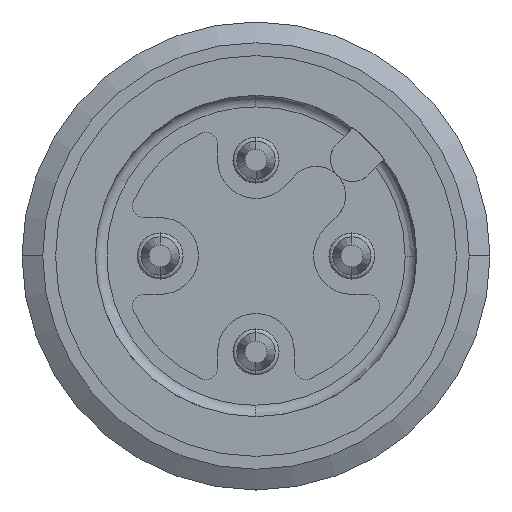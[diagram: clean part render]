
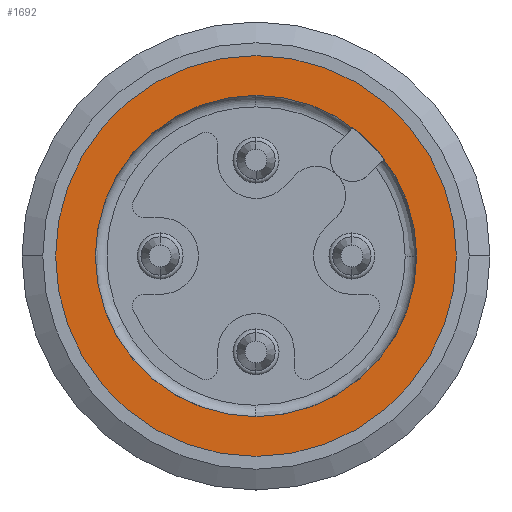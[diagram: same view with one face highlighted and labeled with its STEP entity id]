
A CAD part, front view. The second image highlights one B-rep face of the part: STEP entity #1692.
In plain terms, the highlighted planar face has unit normal (0, -1, 0).
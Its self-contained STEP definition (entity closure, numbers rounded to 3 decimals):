
#1634 = EDGE_CURVE('',#1635,#1637,#1639,.T.);
#1635 = VERTEX_POINT('',#1636);
#1636 = CARTESIAN_POINT('',(0.,-33.163,
    4.187));
#1637 = VERTEX_POINT('',#1638);
#1638 = CARTESIAN_POINT('',(0.,-33.163,
    -4.188));
#1639 = CIRCLE('',#1640,4.188);
#1640 = AXIS2_PLACEMENT_3D('',#1641,#1642,#1643);
#1641 = CARTESIAN_POINT('',(0.,-33.163,
    0.));
#1642 = DIRECTION('',(0.,1.,0.));
#1643 = DIRECTION('',(0.,0.,1.));
#1692 = ADVANCED_FACE('',(#1693,#1713),#1723,.T.);
#1693 = FACE_BOUND('',#1694,.T.);
#1694 = EDGE_LOOP('',(#1695,#1706));
#1695 = ORIENTED_EDGE('',*,*,#1696,.F.);
#1696 = EDGE_CURVE('',#1697,#1699,#1701,.T.);
#1697 = VERTEX_POINT('',#1698);
#1698 = CARTESIAN_POINT('',(0.,-33.163,
    5.225));
#1699 = VERTEX_POINT('',#1700);
#1700 = CARTESIAN_POINT('',(0.,-33.163,
    -5.225));
#1701 = CIRCLE('',#1702,5.225);
#1702 = AXIS2_PLACEMENT_3D('',#1703,#1704,#1705);
#1703 = CARTESIAN_POINT('',(0.,-33.163,
    0.));
#1704 = DIRECTION('',(0.,1.,0.));
#1705 = DIRECTION('',(0.,0.,1.));
#1706 = ORIENTED_EDGE('',*,*,#1707,.F.);
#1707 = EDGE_CURVE('',#1699,#1697,#1708,.T.);
#1708 = CIRCLE('',#1709,5.225);
#1709 = AXIS2_PLACEMENT_3D('',#1710,#1711,#1712);
#1710 = CARTESIAN_POINT('',(0.,-33.163,
    0.));
#1711 = DIRECTION('',(0.,1.,0.));
#1712 = DIRECTION('',(0.,0.,1.));
#1713 = FACE_BOUND('',#1714,.T.);
#1714 = EDGE_LOOP('',(#1715,#1716));
#1715 = ORIENTED_EDGE('',*,*,#1634,.T.);
#1716 = ORIENTED_EDGE('',*,*,#1717,.T.);
#1717 = EDGE_CURVE('',#1637,#1635,#1718,.T.);
#1718 = CIRCLE('',#1719,4.188);
#1719 = AXIS2_PLACEMENT_3D('',#1720,#1721,#1722);
#1720 = CARTESIAN_POINT('',(0.,-33.163,
    0.));
#1721 = DIRECTION('',(0.,1.,0.));
#1722 = DIRECTION('',(0.,0.,1.));
#1723 = PLANE('',#1724);
#1724 = AXIS2_PLACEMENT_3D('',#1725,#1726,#1727);
#1725 = CARTESIAN_POINT('',(-5.748,-33.163,5.747));
#1726 = DIRECTION('',(0.,-1.,0.));
#1727 = DIRECTION('',(1.,0.,0.));
